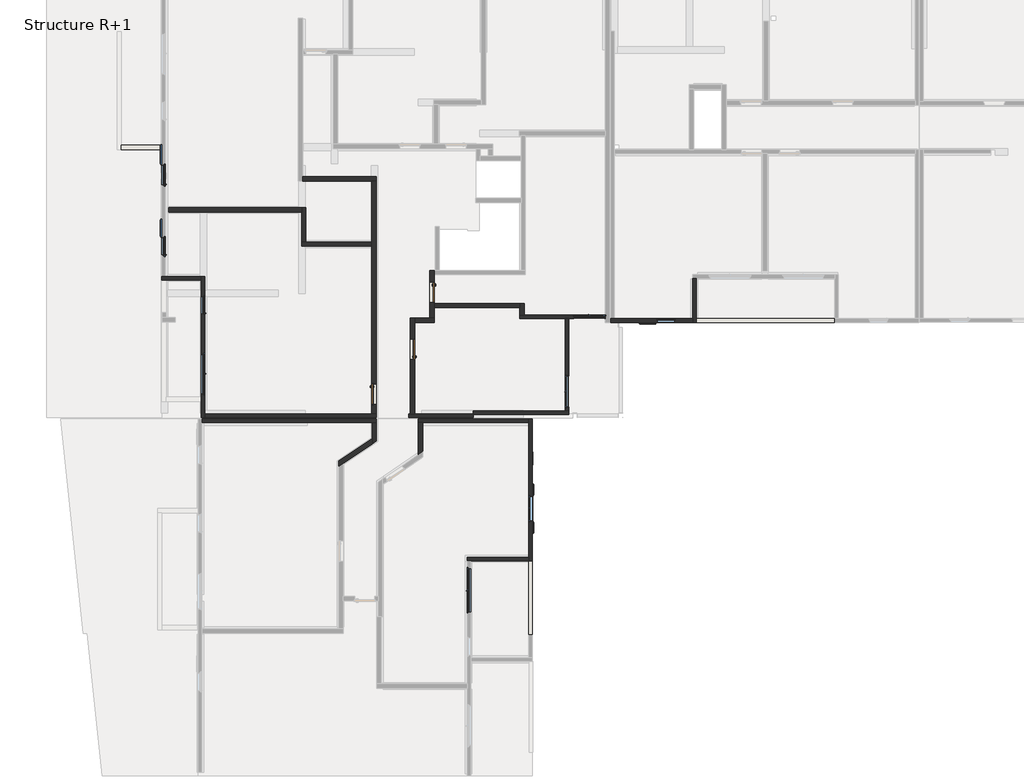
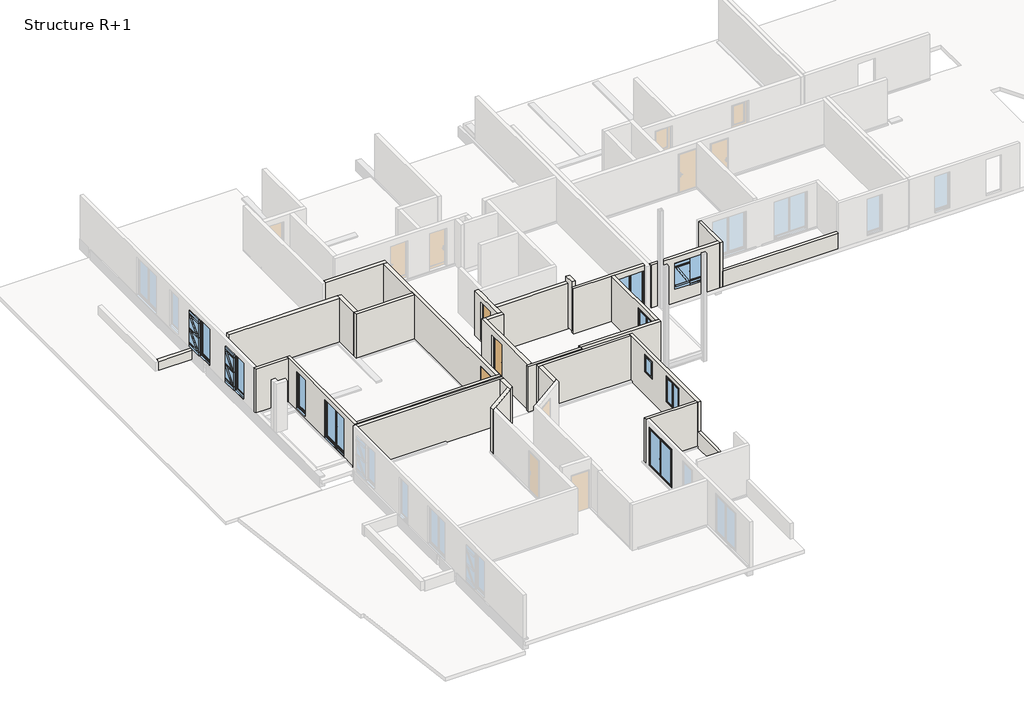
# One storey, part 2 of 11: 29 walls, 10 windows, 3 doors.
"""IFC4 building model written with IfcOpenShell, lengths in millimetres."""

from ifc_helpers import new_model, si_unit, frame, origin, place, context, project, spatial, polyline, outline, extrude, faceted_brep, transform, mapped, element, save
from components import door_6208809c, door_d4e09bec, window_6b6e24a2, window_e9bb7084, window_0_80m_x_2_05m_45d8a1b5, window_0_80m_x_2_05m_30132c93, window_0_90m_x_2_05m_de598733, window_1_vantail_droit_98c18ad5, window_1_40m_x_2_15m_17989232, window_1_80m_x_2_15m_7d3a4370, window_2_00m_x_2_15m_5decbdad

model = new_model("IFC4")

# Units and contexts
model_context = context("Model", 3, world=origin())
ifc_project = project(units=[si_unit("LENGTHUNIT", "METRE", prefix="MILLI")], contexts=[model_context])

# Site, building, storey
site = spatial("IfcSite", under=ifc_project)
building = spatial("IfcBuilding", under=site)
storey = spatial("IfcBuildingStorey", under=building, Name="Structure R+1", Elevation=3320.0)

# Doors
placement = place(None, origin())
door_shape = door_6208809c(model_context)
element("IfcDoor", 1, ObjectType="Entrée (avec angle d'ouverture) : PP Lisse (0.90 m x 2.15 m)", at=placement, inside=storey, context=model_context, shape_type="MappedRepresentation", body=[
    mapped(door_shape, transform((13145.0967812, 11175.465256, 3320.0), x_axis=(0.0, -1.0, 0.0), y_axis=(1.0, 0.0, 0.0), z_axis=(0.0, 0.0, 1.0))),
])
element("IfcDoor", 2, ObjectType="Entrée (avec angle d'ouverture) : PP Lisse (0.90 m x 2.15 m)", at=placement, inside=storey, context=model_context, shape_type="MappedRepresentation", body=[
    mapped(door_shape, transform((14889.7714977, 13219.661769, 3320.0), x_axis=(0.0, 1.0, 0.0), y_axis=(-1.0, 0.0, 0.0), z_axis=(0.0, 0.0, 1.0))),
])
door_2_shape = door_d4e09bec(model_context)
element("IfcDoor", 3, ObjectType="Entrée (avec angle d'ouverture) : PP Lisse (0.90 m x 2.15 m)", at=placement, inside=storey, context=model_context, shape_type="MappedRepresentation", body=[
    mapped(door_2_shape, transform((15775.9659642, 15787.9594141, 3320.0), x_axis=(0.0, -1.0, 0.0), y_axis=(1.0, 0.0, 0.0), z_axis=(0.0, 0.0, 1.0))),
])

# Walls
element("IfcWall", 4, ObjectType="Ext. Voile BA 16 + 2 + 2", at=placement, inside=storey, context=model_context, shape_type="Brep", body=[
    faceted_brep([(20315.920738, 3635.465256, 4130.0), (20315.920738, 265.0198488, 4130.0), (20315.920738, 265.0198488, 3320.0), (20315.920738, 265.0198488, 3230.0), (20315.920738, 3635.465256, 3230.0), (20155.920738, 265.0198488, 4130.0), (20155.920738, 3635.465256, 4130.0), (20155.920738, 3635.465256, 3230.0), (20155.920738, 265.0198488, 3230.0), (20155.920738, 265.0198488, 3320.0)], [[[0, 1, 2, 3, 4]], [[5, 6, 7, 8, 9]], [[6, 0, 4, 7]], [[1, 0, 6, 5]], [[1, 5, 9, 8, 3, 2]], [[4, 3, 8, 7]]]),
])
element("IfcWall", 5, ObjectType="Ext. Voile BA 16 + 2 + 2", at=placement, inside=storey, context=model_context, shape_type="SweptSolid", body=[
    extrude(outline(polyline([(34012.3966699, 14437.8380864), (27746.9796965, 14437.8380864), (27746.9796965, 14597.8380864), (34012.3966699, 14597.8380864), (34012.3966699, 14437.8380864)])), frame((0.0, 0.0, 3230.0), z_axis=(0.0, 0.0, 1.0), x_axis=(1.0, 0.0, 0.0)), (0.0, 0.0, 1.0), 900.0),
])
element("IfcWall", 6, ObjectType="Ext. Voile BA 16 + Isolant 120", at=placement, inside=storey, context=model_context, shape_type="Brep", body=[
    faceted_brep([(27586.9796965, 16431.4013077, 3230.0), (27586.9796965, 14597.8380864, 3230.0), (27586.9796965, 14437.8380864, 3230.0), (27586.9796965, 14437.8380864, 5830.0), (27586.9796965, 14597.8380864, 5830.0), (27586.9796965, 16431.4013077, 5830.0), (27746.9796965, 16431.4013077, 3230.0), (27746.9796965, 16431.4013077, 5830.0), (27746.9796965, 14437.8380864, 5830.0), (27746.9796965, 14437.8380864, 3230.0)], [[[0, 1, 2, 3, 4, 5]], [[6, 7, 8, 9]], [[2, 1, 0, 6, 9]], [[5, 4, 3, 8, 7]], [[0, 5, 7, 6]], [[2, 9, 8, 3]]]),
])
element("IfcWall", 7, ObjectType="Ext. Voile BA 16 + Isolant 120", at=placement, inside=storey, context=model_context, shape_type="Brep", body=[
    faceted_brep([(23871.9389593, 14597.8380864, 5830.0), (24031.9389593, 14597.8380864, 5830.0), (27586.9796965, 14597.8380864, 5830.0), (27586.9796965, 14597.8380864, 3230.0), (24031.9389593, 14597.8380864, 3230.0), (23871.9389593, 14597.8380864, 3230.0), (25966.9796965, 14597.8380864, 4055.0), (26766.9796965, 14597.8380864, 4055.0), (26816.9796965, 14597.8380864, 4055.0), (26816.9796965, 14597.8380864, 5555.0), (25916.9796965, 14597.8380864, 5555.0), (25916.9796965, 14597.8380864, 4055.0), (27586.9796965, 14437.8380864, 5830.0), (23871.9389593, 14437.8380864, 5830.0), (23871.9389593, 14437.8380864, 3230.0), (23879.3002373, 14437.8380864, 3230.0), (27586.9796965, 14437.8380864, 3230.0), (26766.9796965, 14437.8380864, 5505.0), (26766.9796965, 14437.8380864, 3975.0), (25966.9796965, 14437.8380864, 3975.0), (25966.9796965, 14437.8380864, 5505.0), (26766.9796965, 14517.8380864, 4055.0), (26766.9796965, 14517.8380864, 3975.0), (26766.9796965, 14497.8380864, 5505.0), (26766.9796965, 14497.8380864, 4055.0), (25966.9796965, 14517.8380864, 3975.0), (25966.9796965, 14517.8380864, 4055.0), (25966.9796965, 14497.8380864, 4055.0), (25966.9796965, 14497.8380864, 5505.0), (26776.9796965, 14497.8380864, 4055.0), (26776.9796965, 14547.8380864, 4055.0), (26816.9796965, 14547.8380864, 4055.0), (25916.9796965, 14547.8380864, 4055.0), (25956.9796965, 14547.8380864, 4055.0), (25956.9796965, 14497.8380864, 4055.0), (26816.9796965, 14547.8380864, 5555.0), (25916.9796965, 14547.8380864, 5555.0), (26776.9796965, 14547.8380864, 5515.0), (25956.9796965, 14547.8380864, 5515.0), (26776.9796965, 14497.8380864, 5515.0), (25956.9796965, 14497.8380864, 5515.0)], [[[0, 1, 2, 3, 4, 5], [6, 7, 8, 9, 10, 11]], [[12, 13, 14, 15, 16], [17, 18, 19, 20]], [[2, 1, 0, 13, 12]], [[21, 22, 18, 17, 23, 24]], [[25, 26, 27, 28, 20, 19]], [[21, 24, 29, 30, 31, 8, 7, 6, 11, 32, 33, 34, 27, 26]], [[28, 23, 17, 20]], [[22, 25, 19, 18]], [[22, 21, 26, 25]], [[8, 31, 35, 9]], [[33, 32, 36, 35, 31, 30, 37, 38]], [[30, 29, 39, 37]], [[24, 23, 28, 27, 34, 40, 39, 29]], [[9, 35, 36, 10]], [[38, 37, 39, 40]], [[32, 11, 10, 36]], [[34, 33, 38, 40]], [[13, 0, 5, 14]], [[3, 16, 15, 14, 5, 4]], [[2, 12, 16, 3]]]),
])
element("IfcWall", 8, ObjectType="Ext. Voile BA 16 + Isolant 120", at=placement, inside=storey, context=model_context, shape_type="Brep", body=[
    faceted_brep([(5489.893812, 10125.465256, 3230.0), (5489.893812, 10285.465256, 3230.0), (5489.893812, 16515.4652425, 3230.0), (5489.893812, 16515.4652425, 5830.0), (5489.893812, 10285.465256, 5830.0), (5489.893812, 10125.465256, 5830.0), (5489.893812, 15665.4652425, 3455.0), (5489.893812, 14765.4652425, 3455.0), (5489.893812, 14765.4652425, 5555.0), (5489.893812, 15665.4652425, 5555.0), (5489.893812, 13035.465256, 3355.0), (5489.893812, 11135.465256, 3355.0), (5489.893812, 11135.465256, 5555.0), (5489.893812, 13035.465256, 5555.0), (5329.893812, 10125.465256, 3230.0), (5329.893812, 10125.465256, 5830.0), (5329.893812, 16355.4652425, 5830.0), (5329.893812, 16515.4652425, 5830.0), (5329.893812, 16515.4652425, 3230.0), (5329.893812, 16355.4652425, 3230.0), (5329.893812, 14815.4652425, 5505.0), (5329.893812, 14815.4652425, 3446.5916612), (5329.893812, 15615.4652425, 3446.5916612), (5329.893812, 15615.4652425, 5505.0), (5329.893812, 11185.465256, 5505.0), (5329.893812, 11185.465256, 3346.5916612), (5329.893812, 12985.465256, 3346.5916612), (5329.893812, 12985.465256, 5505.0), (5409.893812, 14815.4652425, 3455.0), (5389.893812, 14815.4652425, 5505.0), (5389.893812, 14815.4652425, 3455.0), (5409.893812, 15615.4652425, 3455.0), (5389.893812, 15615.4652425, 3455.0), (5389.893812, 15615.4652425, 5505.0), (5389.893812, 14805.4652425, 3455.0), (5439.893812, 14805.4652425, 3455.0), (5439.893812, 14765.4652425, 3455.0), (5439.893812, 15665.4652425, 3455.0), (5439.893812, 15625.4652425, 3455.0), (5389.893812, 15625.4652425, 3455.0), (5439.893812, 14765.4652425, 5555.0), (5439.893812, 14805.4652425, 5515.0), (5439.893812, 15625.4652425, 5515.0), (5439.893812, 15665.4652425, 5555.0), (5389.893812, 14805.4652425, 5515.0), (5389.893812, 15625.4652425, 5515.0), (5409.893812, 11185.465256, 3355.0), (5389.893812, 11185.465256, 5505.0), (5389.893812, 11185.465256, 3355.0), (5409.893812, 12985.465256, 3355.0), (5389.893812, 12985.465256, 3355.0), (5389.893812, 12985.465256, 5505.0), (5389.893812, 11175.465256, 3355.0), (5439.893812, 11175.465256, 3355.0), (5439.893812, 11135.465256, 3355.0), (5439.893812, 13035.465256, 3355.0), (5439.893812, 12995.465256, 3355.0), (5389.893812, 12995.465256, 3355.0), (5439.893812, 11135.465256, 5555.0), (5439.893812, 11175.465256, 5515.0), (5439.893812, 12995.465256, 5515.0), (5439.893812, 13035.465256, 5555.0), (5389.893812, 11175.465256, 5515.0), (5389.893812, 12995.465256, 5515.0)], [[[0, 1, 2, 3, 4, 5], [6, 7, 8, 9], [10, 11, 12, 13]], [[14, 15, 16, 17, 18, 19], [20, 21, 22, 23], [24, 25, 26, 27]], [[2, 1, 0, 14, 19, 18]], [[5, 4, 3, 17, 16, 15]], [[3, 2, 18, 17]], [[0, 5, 15, 14]], [[28, 21, 20, 29, 30]], [[22, 31, 32, 33, 23]], [[28, 31, 22, 21]], [[20, 23, 33, 29]], [[31, 28, 30, 34, 35, 36, 7, 6, 37, 38, 39, 32]], [[7, 36, 40, 8]], [[36, 35, 41, 42, 38, 37, 43, 40]], [[35, 34, 44, 41]], [[34, 30, 29, 33, 32, 39, 45, 44]], [[8, 40, 43, 9]], [[42, 41, 44, 45]], [[43, 37, 6, 9]], [[38, 42, 45, 39]], [[46, 25, 24, 47, 48]], [[26, 49, 50, 51, 27]], [[46, 49, 26, 25]], [[24, 27, 51, 47]], [[49, 46, 48, 52, 53, 54, 11, 10, 55, 56, 57, 50]], [[11, 54, 58, 12]], [[54, 53, 59, 60, 56, 55, 61, 58]], [[53, 52, 62, 59]], [[52, 48, 47, 51, 50, 57, 63, 62]], [[12, 58, 61, 13]], [[60, 59, 62, 63]], [[61, 55, 10, 13]], [[56, 60, 63, 57]]]),
])
element("IfcWall", 9, ObjectType="Ext. Voile BA 16 + Isolant 120", at=placement, inside=storey, context=model_context, shape_type="Brep", body=[
    faceted_brep([(5329.893812, 16515.4652425, 3230.0), (3696.9058449, 16515.4652425, 3230.0), (3536.9058449, 16515.4652425, 3230.0), (3536.9058449, 16515.4652425, 5830.0), (3696.9058449, 16515.4652425, 5830.0), (5329.893812, 16515.4652425, 5830.0), (5329.893812, 16355.4652425, 3230.0), (5329.893812, 16355.4652425, 5830.0), (3536.9058449, 16355.4652425, 5830.0), (3536.9058449, 16355.4652425, 3330.0), (3536.9058449, 16355.4652425, 3230.0)], [[[0, 1, 2, 3, 4, 5]], [[6, 7, 8, 9, 10]], [[2, 1, 0, 6, 10]], [[5, 4, 3, 8, 7]], [[0, 5, 7, 6]], [[2, 10, 9, 8, 3]]]),
])
element("IfcWall", 10, ObjectType="Ext. Voile BA 16 + Isolant 120", at=placement, inside=storey, context=model_context, shape_type="Brep", body=[
    faceted_brep([(20155.920738, 10065.4658562, 3030.0), (20155.920738, 3635.465256, 3030.0), (20155.920738, 3635.465256, 3230.0), (20155.920738, 3635.465256, 5830.0), (20155.920738, 3795.465256, 5830.0), (20155.920738, 9905.4658562, 5830.0), (20155.920738, 10065.4658562, 5830.0), (20155.920738, 10065.4658562, 3230.0), (20155.920738, 5395.465256, 4055.0), (20155.920738, 6595.465256, 4055.0), (20155.920738, 6595.465256, 5555.0), (20155.920738, 5395.465256, 5555.0), (20155.920738, 7915.4658562, 4555.0), (20155.920738, 8615.4658562, 4555.0), (20155.920738, 8615.4658562, 5555.0), (20155.920738, 7915.4658562, 5555.0), (20315.920738, 10065.4658562, 3030.0), (20315.920738, 10065.4658562, 5830.0), (20315.920738, 3635.465256, 5830.0), (20315.920738, 3635.465256, 3030.0), (20315.920738, 6545.465256, 5505.0), (20315.920738, 6545.465256, 3975.0), (20315.920738, 5445.465256, 3975.0), (20315.920738, 5445.465256, 5505.0), (20315.920738, 8565.4658562, 5505.0), (20315.920738, 8565.4658562, 4531.5916612), (20315.920738, 7965.4658562, 4531.5916612), (20315.920738, 7965.4658562, 5505.0), (20235.920738, 6545.465256, 4055.0), (20235.920738, 6545.465256, 3975.0), (20255.920738, 6545.465256, 5505.0), (20255.920738, 6545.465256, 4055.0), (20235.920738, 5445.465256, 3975.0), (20235.920738, 5445.465256, 4055.0), (20255.920738, 5445.465256, 4055.0), (20255.920738, 5445.465256, 5505.0), (20255.920738, 6555.465256, 4055.0), (20205.920738, 6555.465256, 4055.0), (20205.920738, 6595.465256, 4055.0), (20205.920738, 5395.465256, 4055.0), (20205.920738, 5435.465256, 4055.0), (20255.920738, 5435.465256, 4055.0), (20205.920738, 6595.465256, 5555.0), (20205.920738, 6555.465256, 5515.0), (20205.920738, 5435.465256, 5515.0), (20205.920738, 5395.465256, 5555.0), (20255.920738, 6555.465256, 5515.0), (20255.920738, 5435.465256, 5515.0), (20235.920738, 8565.4658562, 4555.0), (20235.920738, 8565.4658562, 4540.0), (20255.920738, 8565.4658562, 5505.0), (20255.920738, 8565.4658562, 4555.0), (20235.920738, 7965.4658562, 4540.0), (20235.920738, 7965.4658562, 4555.0), (20255.920738, 7965.4658562, 4555.0), (20255.920738, 7965.4658562, 5505.0), (20255.920738, 8575.4658562, 4555.0), (20205.920738, 8575.4658562, 4555.0), (20205.920738, 8615.4658562, 4555.0), (20205.920738, 7915.4658562, 4555.0), (20205.920738, 7955.4658562, 4555.0), (20255.920738, 7955.4658562, 4555.0), (20205.920738, 8615.4658562, 5555.0), (20205.920738, 8575.4658562, 5515.0), (20205.920738, 7955.4658562, 5515.0), (20205.920738, 7915.4658562, 5555.0), (20255.920738, 8575.4658562, 5515.0), (20255.920738, 7955.4658562, 5515.0)], [[[0, 1, 2, 3, 4, 5, 6, 7], [8, 9, 10, 11], [12, 13, 14, 15]], [[16, 17, 18, 19], [20, 21, 22, 23], [24, 25, 26, 27]], [[1, 0, 16, 19]], [[6, 5, 4, 3, 18, 17]], [[3, 2, 1, 19, 18]], [[0, 7, 6, 17, 16]], [[28, 29, 21, 20, 30, 31]], [[32, 33, 34, 35, 23, 22]], [[29, 32, 22, 21]], [[29, 28, 33, 32]], [[20, 23, 35, 30]], [[33, 28, 31, 36, 37, 38, 9, 8, 39, 40, 41, 34]], [[9, 38, 42, 10]], [[38, 37, 43, 44, 40, 39, 45, 42]], [[37, 36, 46, 43]], [[36, 31, 30, 35, 34, 41, 47, 46]], [[10, 42, 45, 11]], [[44, 43, 46, 47]], [[45, 39, 8, 11]], [[40, 44, 47, 41]], [[48, 49, 25, 24, 50, 51]], [[52, 53, 54, 55, 27, 26]], [[49, 52, 26, 25]], [[49, 48, 53, 52]], [[24, 27, 55, 50]], [[53, 48, 51, 56, 57, 58, 13, 12, 59, 60, 61, 54]], [[13, 58, 62, 14]], [[58, 57, 63, 64, 60, 59, 65, 62]], [[57, 56, 66, 63]], [[56, 51, 50, 55, 54, 61, 67, 66]], [[14, 62, 65, 15]], [[64, 63, 66, 67]], [[65, 59, 12, 15]], [[60, 64, 67, 61]]]),
])
element("IfcWall", 11, ObjectType="Ext. Voile BA 16 + Isolant 120", at=placement, inside=storey, context=model_context, shape_type="Brep", body=[
    faceted_brep([(20155.920738, 3795.465256, 3230.0), (17362.934101, 3795.465256, 3230.0), (17362.934101, 3795.465256, 5830.0), (20155.920738, 3795.465256, 5830.0), (20155.920738, 3635.465256, 3230.0), (20155.920738, 3635.465256, 5830.0), (17522.934101, 3635.465256, 5830.0), (17362.934101, 3635.465256, 5830.0), (17362.934101, 3635.465256, 3230.0), (17522.934101, 3635.465256, 3230.0)], [[[0, 1, 2, 3]], [[4, 5, 6, 7, 8, 9]], [[1, 0, 4, 9, 8]], [[3, 2, 7, 6, 5]], [[0, 3, 5, 4]], [[2, 1, 8, 7]]]),
])
element("IfcWall", 12, ObjectType="Ext. Voile BA 16 + Isolant 120", at=placement, inside=storey, context=model_context, shape_type="Brep", body=[
    faceted_brep([(23619.3795366, 14760.8367198, 3230.0), (19749.8723761, 14760.8367198, 3230.0), (19749.8723761, 14760.8367198, 3320.0), (19749.8723761, 14760.8367198, 5830.0), (23619.3795366, 14760.8367198, 5830.0), (23619.3795366, 14760.8367198, 5555.0), (22135.8013446, 14760.8367198, 5555.0), (22135.8013446, 14760.8367198, 3355.0), (22185.8013446, 14760.8367198, 3355.0), (23585.8013446, 14760.8367198, 3355.0), (23619.3795366, 14760.8367198, 3355.0), (19749.8723761, 14600.8367198, 3230.0), (21812.2231526, 14600.8367198, 3230.0), (21972.2231526, 14600.8367198, 3230.0), (23619.3795366, 14600.8367198, 3230.0), (23619.3795366, 14600.8367198, 5830.0), (21972.2231526, 14600.8367198, 5830.0), (21812.2231526, 14600.8367198, 5830.0), (19749.8723761, 14600.8367198, 5830.0), (23585.8013446, 14600.8367198, 5505.0), (23585.8013446, 14600.8367198, 3346.5916612), (22185.8013446, 14600.8367198, 3346.5916612), (22185.8013446, 14600.8367198, 5505.0), (23619.3795366, 14710.8367198, 3355.0), (23619.3795366, 14710.8367198, 5555.0), (23585.8013446, 14660.8367198, 5505.0), (23585.8013446, 14660.8367198, 3355.0), (23585.8013446, 14680.8367198, 3355.0), (22185.8013446, 14680.8367198, 3355.0), (22185.8013446, 14660.8367198, 3355.0), (22185.8013446, 14660.8367198, 5505.0), (23595.8013446, 14660.8367198, 3355.0), (23595.8013446, 14710.8367198, 3355.0), (22135.8013446, 14710.8367198, 3355.0), (22175.8013446, 14710.8367198, 3355.0), (22175.8013446, 14660.8367198, 3355.0), (22135.8013446, 14710.8367198, 5555.0), (23595.8013446, 14710.8367198, 5515.0), (22175.8013446, 14710.8367198, 5515.0), (23595.8013446, 14660.8367198, 5515.0), (22175.8013446, 14660.8367198, 5515.0)], [[[0, 1, 2, 3, 4, 5, 6, 7, 8, 9, 10]], [[11, 12, 13, 14, 15, 16, 17, 18], [19, 20, 21, 22]], [[1, 0, 14, 13, 12, 11]], [[4, 3, 18, 17, 16, 15]], [[4, 15, 14, 0, 10, 23, 24, 5]], [[3, 2, 1, 11, 18]], [[25, 26, 27, 20, 19]], [[28, 29, 30, 22, 21]], [[27, 26, 31, 32, 23, 10, 9, 8, 7, 33, 34, 35, 29, 28]], [[30, 25, 19, 22]], [[27, 28, 21, 20]], [[34, 33, 36, 24, 23, 32, 37, 38]], [[32, 31, 39, 37]], [[26, 25, 30, 29, 35, 40, 39, 31]], [[36, 6, 5, 24]], [[38, 37, 39, 40]], [[33, 7, 6, 36]], [[35, 34, 38, 40]]]),
])
element("IfcWall", 13, ObjectType="Ext. Voile BA 16 + Isolant 120", at=placement, inside=storey, context=model_context, shape_type="Brep", body=[
    faceted_brep([(17640.104333, 10428.39158, 5830.0), (21812.2231526, 10428.39158, 5830.0), (21972.2231526, 10428.39158, 5830.0), (21972.2231526, 10428.39158, 3230.0), (21812.2231526, 10428.39158, 3230.0), (17640.104333, 10428.39158, 3230.0), (21972.2231526, 10268.39158, 5830.0), (17640.104333, 10268.39158, 5830.0), (17640.104333, 10268.39158, 3230.0), (21972.2231526, 10268.39158, 3230.0)], [[[0, 1, 2, 3, 4, 5]], [[6, 7, 8, 9]], [[7, 0, 5, 8]], [[2, 1, 0, 7, 6]], [[2, 6, 9, 3]], [[5, 4, 3, 9, 8]]]),
])
element("IfcWall", 14, ObjectType="Ext. Voile BA 16 + Isolant 120", at=placement, inside=storey, context=model_context, shape_type="Brep", body=[
    faceted_brep([(21812.2231526, 14600.8367198, 3230.0), (21812.2231526, 10428.39158, 3230.0), (21812.2231526, 10428.39158, 5830.0), (21812.2231526, 14600.8367198, 5830.0), (21812.2231526, 10558.39158, 3355.0), (21812.2231526, 12058.39158, 3355.0), (21812.2231526, 12058.39158, 5555.0), (21812.2231526, 10558.39158, 5555.0), (21972.2231526, 14600.8367198, 3230.0), (21972.2231526, 14600.8367198, 5830.0), (21972.2231526, 10428.39158, 5830.0), (21972.2231526, 10428.39158, 3230.0), (21972.2231526, 12008.39158, 5505.0), (21972.2231526, 12008.39158, 3346.5916612), (21972.2231526, 10608.39158, 3346.5916612), (21972.2231526, 10608.39158, 5505.0), (21892.2231526, 12008.39158, 3355.0), (21912.2231526, 12008.39158, 5505.0), (21912.2231526, 12008.39158, 3355.0), (21892.2231526, 10608.39158, 3355.0), (21912.2231526, 10608.39158, 3355.0), (21912.2231526, 10608.39158, 5505.0), (21912.2231526, 12018.39158, 3355.0), (21862.2231526, 12018.39158, 3355.0), (21862.2231526, 12058.39158, 3355.0), (21862.2231526, 10558.39158, 3355.0), (21862.2231526, 10598.39158, 3355.0), (21912.2231526, 10598.39158, 3355.0), (21862.2231526, 12058.39158, 5555.0), (21862.2231526, 12018.39158, 5515.0), (21862.2231526, 10598.39158, 5515.0), (21862.2231526, 10558.39158, 5555.0), (21912.2231526, 12018.39158, 5515.0), (21912.2231526, 10598.39158, 5515.0)], [[[0, 1, 2, 3], [4, 5, 6, 7]], [[8, 9, 10, 11], [12, 13, 14, 15]], [[1, 0, 8, 11]], [[3, 2, 10, 9]], [[2, 1, 11, 10]], [[0, 3, 9, 8]], [[16, 13, 12, 17, 18]], [[14, 19, 20, 21, 15]], [[16, 19, 14, 13]], [[12, 15, 21, 17]], [[19, 16, 18, 22, 23, 24, 5, 4, 25, 26, 27, 20]], [[5, 24, 28, 6]], [[24, 23, 29, 30, 26, 25, 31, 28]], [[23, 22, 32, 29]], [[22, 18, 17, 21, 20, 27, 33, 32]], [[6, 28, 31, 7]], [[30, 29, 32, 33]], [[31, 25, 4, 7]], [[26, 30, 33, 27]]]),
])
element("IfcWall", 15, ObjectType="Voile BA 16", at=placement, inside=storey, context=model_context, shape_type="Brep", body=[
    faceted_brep([(5344.2512184, 9895.4625547, 5830.0), (5344.2512184, 9895.4625547, 3230.0), (13056.279785, 9895.4625547, 3230.0), (13256.279785, 9895.4625547, 3230.0), (13256.279785, 9895.4625547, 5830.0), (13056.279785, 9895.4625547, 5830.0), (5344.2512184, 10055.4625547, 3230.0), (5344.2512184, 10055.4625547, 5830.0), (13256.279785, 10055.4625547, 5830.0), (13256.279785, 10055.4625547, 3230.0)], [[[0, 1, 2, 3, 4, 5]], [[6, 7, 8, 9]], [[3, 2, 1, 6, 9]], [[0, 5, 4, 8, 7]], [[4, 3, 9, 8]], [[0, 7, 6, 1]]]),
])
element("IfcWall", 16, ObjectType="Voile BA 16", at=placement, inside=storey, context=model_context, shape_type="Brep", body=[
    faceted_brep([(5489.893812, 10125.465256, 5830.0), (5489.893812, 10125.465256, 3230.0), (13245.0967812, 10125.465256, 3230.0), (13245.0967812, 10125.465256, 5830.0), (5489.893812, 10285.465256, 3230.0), (5489.893812, 10285.465256, 5830.0), (13045.0967812, 10285.465256, 5830.0), (13245.0967812, 10285.465256, 5830.0), (13245.0967812, 10285.465256, 3230.0), (13045.0967812, 10285.465256, 3230.0)], [[[0, 1, 2, 3]], [[4, 5, 6, 7, 8, 9]], [[2, 1, 4, 9, 8]], [[0, 3, 7, 6, 5]], [[3, 2, 8, 7]], [[0, 5, 4, 1]]]),
])
element("IfcWall", 17, ObjectType="Voile BA 16", at=placement, inside=storey, context=model_context, shape_type="Brep", body=[
    faceted_brep([(15152.2580905, 9905.4658562, 3230.0), (15352.2580905, 9905.4658562, 3230.0), (20155.920738, 9905.4658562, 3230.0), (20155.920738, 9905.4658562, 5830.0), (15352.2580905, 9905.4658562, 5830.0), (15152.2580905, 9905.4658562, 5830.0), (15152.2580905, 10065.4658562, 3230.0), (15152.2580905, 10065.4658562, 5830.0), (20155.920738, 10065.4658562, 5830.0), (20155.920738, 10065.4658562, 3230.0)], [[[0, 1, 2, 3, 4, 5]], [[6, 7, 8, 9]], [[2, 1, 0, 6, 9]], [[5, 4, 3, 8, 7]], [[3, 2, 9, 8]], [[0, 5, 7, 6]]]),
])
element("IfcWall", 18, ObjectType="Voile BA 16", at=placement, inside=storey, context=model_context, shape_type="Brep", body=[
    faceted_brep([(14729.7714977, 10125.465256, 3230.0), (17640.104333, 10125.465256, 3230.0), (17640.104333, 10125.465256, 5830.0), (14729.7714977, 10125.465256, 5830.0), (14729.7714977, 10285.465256, 3230.0), (14729.7714977, 10285.465256, 5830.0), (17640.104333, 10285.465256, 5830.0), (17640.104333, 10285.465256, 3320.0), (17640.104333, 10285.465256, 3230.0), (15299.2605642, 10285.465256, 3230.0), (17640.104333, 10135.465256, 3230.0)], [[[0, 1, 2, 3]], [[4, 5, 6, 7, 8, 9]], [[1, 0, 4, 9, 8, 10]], [[2, 1, 10, 8, 7, 6]], [[3, 2, 6, 5]], [[0, 3, 5, 4]]]),
])
element("IfcWall", 19, ObjectType="Voile BA 20", at=placement, inside=storey, context=model_context, shape_type="Brep", body=[
    faceted_brep([(19949.8723761, 14760.8367198, 3320.0), (19949.8723761, 15297.9594141, 3320.0), (19949.8723761, 15297.9594141, 6120.0), (19949.8723761, 14760.8367198, 6120.0), (19749.8723761, 14760.8367198, 3320.0), (19749.8723761, 14760.8367198, 5830.0), (19749.8723761, 14760.8367198, 6120.0), (19749.8723761, 15297.9594141, 6120.0), (19749.8723761, 15297.9594141, 5830.0), (19749.8723761, 15297.9594141, 3320.0)], [[[0, 1, 2, 3]], [[4, 5, 6, 7, 8, 9]], [[1, 0, 4, 9]], [[3, 2, 7, 6]], [[0, 3, 6, 5, 4]], [[2, 1, 9, 8, 7]]]),
])
element("IfcWall", 20, ObjectType="Voile BA 20", at=placement, inside=storey, context=model_context, shape_type="Brep", body=[
    faceted_brep([(19749.8723761, 15297.9594141, 3230.0), (15875.9659642, 15297.9594141, 3230.0), (15875.9659642, 15297.9594141, 5830.0), (19749.8723761, 15297.9594141, 5830.0), (19749.8723761, 15297.9594141, 3320.0), (19749.8723761, 15097.9594141, 3230.0), (19749.8723761, 15097.9594141, 5830.0), (15875.9659642, 15097.9594141, 5830.0), (15875.9659642, 15097.9594141, 3230.0)], [[[0, 1, 2, 3, 4]], [[5, 6, 7, 8]], [[1, 0, 5, 8]], [[3, 2, 7, 6]], [[0, 4, 3, 6, 5]], [[2, 1, 8, 7]]]),
])
element("IfcWall", 21, ObjectType="Voile BA 20", at=placement, inside=storey, context=model_context, shape_type="Brep", body=[
    faceted_brep([(13044.0967812, 18084.4405074, 3230.0), (10065.0967812, 18084.4405074, 3230.0), (9865.0967812, 18084.4405074, 3230.0), (9865.0967812, 18084.4405074, 5830.0), (10065.0967812, 18084.4405074, 5830.0), (13044.0967812, 18084.4405074, 5830.0), (13044.0967812, 17884.4405074, 3230.0), (13044.0967812, 17884.4405074, 5830.0), (9865.0967812, 17884.4405074, 5830.0), (9865.0967812, 17884.4405074, 3230.0)], [[[0, 1, 2, 3, 4, 5]], [[6, 7, 8, 9]], [[2, 1, 0, 6, 9]], [[5, 4, 3, 8, 7]], [[0, 5, 7, 6]], [[3, 2, 9, 8]]]),
])
element("IfcWall", 22, ObjectType="Voile BA 20", at=placement, inside=storey, context=model_context, shape_type="Brep", body=[
    faceted_brep([(10065.0967812, 18084.4405074, 3230.0), (10065.0967812, 19631.3462278, 3230.0), (10065.0967812, 19631.3462278, 5830.0), (10065.0967812, 18084.4405074, 5830.0), (9865.0967812, 18084.4405074, 3230.0), (9865.0967812, 18084.4405074, 5830.0), (9865.0967812, 19431.3462278, 5830.0), (9865.0967812, 19631.3462278, 5830.0), (9865.0967812, 19631.3462278, 3230.0), (9865.0967812, 19431.3462278, 3230.0)], [[[0, 1, 2, 3]], [[4, 5, 6, 7, 8, 9]], [[1, 0, 4, 9, 8]], [[3, 2, 7, 6, 5]], [[0, 3, 5, 4]], [[2, 1, 8, 7]]]),
])
element("IfcWall", 23, ObjectType="Voile BA 20", at=placement, inside=storey, context=model_context, shape_type="SweptSolid", body=[
    extrude(outline(polyline([(3857.9058449, 19631.3462278), (9865.0967812, 19631.3462278), (9865.0967812, 19431.3462278), (3857.9058449, 19431.3462278), (3857.9058449, 19631.3462278)])), frame((0.0, 0.0, 3230.0), z_axis=(0.0, 0.0, 1.0), x_axis=(1.0, 0.0, 0.0)), (0.0, 0.0, 1.0), 2600.0),
])
element("IfcWall", 24, ObjectType="Voile BA 20", at=placement, inside=storey, context=model_context, shape_type="SweptSolid", body=[
    extrude(outline(polyline([(3526.9065839, 22262.3094257), (1707.5836831, 22262.3094257), (1707.5836831, 22462.3094257), (3526.9065839, 22462.3094257), (3526.9065839, 22262.3094257)])), frame((0.0, 0.0, 2830.0), z_axis=(0.0, 0.0, 1.0), x_axis=(1.0, 0.0, 0.0)), (0.0, 0.0, 1.0), 500.0),
])
element("IfcWall", 25, ObjectType="Voile BA 20 + Isolant 60", at=placement, inside=storey, context=model_context, shape_type="SweptSolid", body=[
    extrude(outline(polyline([(15352.2580905, 9905.4658562), (15352.2580905, 8576.7939137), (15152.2580905, 8439.9939492), (15152.2580905, 9905.4658562), (15352.2580905, 9905.4658562)])), frame((0.0, 0.0, 3230.0), z_axis=(0.0, 0.0, 1.0), x_axis=(1.0, 0.0, 0.0)), (0.0, 0.0, 1.0), 2600.0),
])
element("IfcWall", 26, ObjectType="Voile BA 20 + Isolant 60", at=placement, inside=storey, context=model_context, shape_type="Brep", body=[
    faceted_brep([(13056.279785, 9895.4625547, 3230.0), (13056.279785, 9174.0267173, 3230.0), (13056.279785, 8931.716523, 3230.0), (13056.279785, 8931.716523, 5830.0), (13056.279785, 9174.0267173, 5830.0), (13056.279785, 9895.4625547, 5830.0), (13256.279785, 9895.4625547, 3230.0), (13256.279785, 9895.4625547, 5830.0), (13256.279785, 9068.5164875, 5830.0), (13256.279785, 9068.5164875, 3230.0)], [[[0, 1, 2, 3, 4, 5]], [[6, 7, 8, 9]], [[2, 1, 0, 6, 9]], [[5, 4, 3, 8, 7]], [[0, 5, 7, 6]], [[3, 2, 9, 8]]]),
])
element("IfcWall", 27, ObjectType="Voile BA 20 + Isolant 60", at=placement, inside=storey, context=model_context, shape_type="Brep", body=[
    faceted_brep([(13056.279785, 9174.0267173, 3230.0), (11554.0730744, 8146.517594, 3230.0), (11554.0730744, 8146.517594, 5830.0), (13056.279785, 9174.0267173, 5830.0), (13056.279785, 8931.716523, 3230.0), (13056.279785, 8931.716523, 5830.0), (11754.0730744, 8041.0073641, 5830.0), (11554.0730744, 7904.2073996, 5830.0), (11554.0730744, 7904.2073996, 3230.0), (11754.0730744, 8041.0073641, 3230.0)], [[[0, 1, 2, 3]], [[4, 5, 6, 7, 8, 9]], [[1, 0, 4, 9, 8]], [[3, 2, 7, 6, 5]], [[0, 3, 5, 4]], [[2, 1, 8, 7]]]),
])
element("IfcWall", 28, ObjectType="Voile BA 20 + Isolant 60", at=placement, inside=storey, context=model_context, shape_type="Brep", body=[
    faceted_brep([(14989.7714977, 10285.465256, 3230.0), (14989.7714977, 14425.39158, 3230.0), (14989.7714977, 14625.39158, 3230.0), (14989.7714977, 14625.39158, 5830.0), (14989.7714977, 14425.39158, 5830.0), (14989.7714977, 10285.465256, 5830.0), (14989.7714977, 12749.661769, 3320.0), (14989.7714977, 12719.661769, 3320.0), (14989.7714977, 12719.661769, 5510.0), (14989.7714977, 13699.661769, 5510.0), (14989.7714977, 13699.661769, 3320.0), (14989.7714977, 13669.661769, 3320.0), (14789.7714977, 14625.39158, 3230.0), (14789.7714977, 10285.465256, 3230.0), (14789.7714977, 10285.465256, 5830.0), (14789.7714977, 14625.39158, 5830.0), (14789.7714977, 13669.661769, 5480.0), (14789.7714977, 12749.661769, 5480.0), (14789.7714977, 12749.661769, 3320.0), (14789.7714977, 13669.661769, 3320.0), (14889.7714977, 13669.661769, 5480.0), (14889.7714977, 12749.661769, 5480.0), (14889.7714977, 12749.661769, 3320.0), (14889.7714977, 12734.661769, 3320.0), (14932.7714977, 12734.661769, 3320.0), (14932.7714977, 12719.661769, 3320.0), (14932.7714977, 13699.661769, 3320.0), (14932.7714977, 13684.661769, 3320.0), (14889.7714977, 13684.661769, 3320.0), (14889.7714977, 13669.661769, 3320.0), (14932.7714977, 12734.661769, 5495.0), (14932.7714977, 13684.661769, 5495.0), (14932.7714977, 13699.661769, 5510.0), (14932.7714977, 12719.661769, 5510.0), (14889.7714977, 12734.661769, 5495.0), (14889.7714977, 13684.661769, 5495.0)], [[[0, 1, 2, 3, 4, 5], [6, 7, 8, 9, 10, 11]], [[12, 13, 14, 15], [16, 17, 18, 19]], [[2, 1, 0, 13, 12]], [[5, 4, 3, 15, 14]], [[0, 5, 14, 13]], [[3, 2, 12, 15]], [[20, 21, 17, 16]], [[22, 23, 24, 25, 7, 6, 11, 10, 26, 27, 28, 29, 19, 18]], [[29, 20, 16, 19]], [[21, 22, 18, 17]], [[25, 24, 30, 31, 27, 26, 32, 33]], [[7, 25, 33, 8]], [[33, 32, 9, 8]], [[26, 10, 9, 32]], [[24, 23, 34, 30]], [[21, 20, 29, 28, 35, 34, 23, 22]], [[31, 30, 34, 35]], [[28, 27, 31, 35]]]),
])
element("IfcWall", 29, ObjectType="Voile BA 20 + Isolant 60", at=placement, inside=storey, context=model_context, shape_type="Brep", body=[
    faceted_brep([(14989.7714977, 14425.39158, 3230.0), (15875.9659642, 14425.39158, 3230.0), (15875.9659642, 14425.39158, 5830.0), (14989.7714977, 14425.39158, 5830.0), (14989.7714977, 14625.39158, 3230.0), (14989.7714977, 14625.39158, 5830.0), (15675.9659642, 14625.39158, 5830.0), (15875.9659642, 14625.39158, 5830.0), (15875.9659642, 14625.39158, 3230.0), (15675.9659642, 14625.39158, 3230.0)], [[[0, 1, 2, 3]], [[4, 5, 6, 7, 8, 9]], [[1, 0, 4, 9, 8]], [[3, 2, 7, 6, 5]], [[0, 3, 5, 4]], [[2, 1, 8, 7]]]),
])
element("IfcWall", 30, ObjectType="Voile BA 20 + Isolant 60", at=placement, inside=storey, context=model_context, shape_type="Brep", body=[
    faceted_brep([(15875.9659642, 14625.39158, 3230.0), (15875.9659642, 15097.9594141, 3230.0), (15875.9659642, 15297.9594141, 3230.0), (15875.9659642, 16600.9152593, 3230.0), (15875.9659642, 16780.9152593, 3230.0), (15875.9659642, 16780.9152593, 5830.0), (15875.9659642, 16600.9152593, 5830.0), (15875.9659642, 15297.9594141, 5830.0), (15875.9659642, 15097.9594141, 5830.0), (15875.9659642, 14625.39158, 5830.0), (15875.9659642, 15337.9594141, 3320.0), (15875.9659642, 15307.9594141, 3320.0), (15875.9659642, 15307.9594141, 5510.0), (15875.9659642, 16287.9594141, 5510.0), (15875.9659642, 16287.9594141, 3320.0), (15875.9659642, 16257.9594141, 3320.0), (15675.9659642, 16780.9152593, 3230.0), (15675.9659642, 14625.39158, 3230.0), (15675.9659642, 14625.39158, 5830.0), (15675.9659642, 16780.9152593, 5830.0), (15675.9659642, 16257.9594141, 5480.0), (15675.9659642, 15337.9594141, 5480.0), (15675.9659642, 15337.9594141, 3320.0), (15675.9659642, 16257.9594141, 3320.0), (15775.9659642, 16257.9594141, 5480.0), (15775.9659642, 15337.9594141, 5480.0), (15775.9659642, 15337.9594141, 3320.0), (15775.9659642, 15322.9594141, 3320.0), (15818.9659642, 15322.9594141, 3320.0), (15818.9659642, 15307.9594141, 3320.0), (15818.9659642, 16287.9594141, 3320.0), (15818.9659642, 16272.9594141, 3320.0), (15775.9659642, 16272.9594141, 3320.0), (15775.9659642, 16257.9594141, 3320.0), (15818.9659642, 15322.9594141, 5495.0), (15818.9659642, 16272.9594141, 5495.0), (15818.9659642, 16287.9594141, 5510.0), (15818.9659642, 15307.9594141, 5510.0), (15775.9659642, 16272.9594141, 5495.0), (15775.9659642, 15322.9594141, 5495.0)], [[[0, 1, 2, 3, 4, 5, 6, 7, 8, 9], [10, 11, 12, 13, 14, 15]], [[16, 17, 18, 19], [20, 21, 22, 23]], [[4, 3, 2, 1, 0, 17, 16]], [[9, 8, 7, 6, 5, 19, 18]], [[5, 4, 16, 19]], [[24, 25, 21, 20]], [[26, 27, 28, 29, 11, 10, 15, 14, 30, 31, 32, 33, 23, 22]], [[25, 26, 22, 21]], [[33, 24, 20, 23]], [[29, 28, 34, 35, 31, 30, 36, 37]], [[30, 14, 13, 36]], [[37, 36, 13, 12]], [[11, 29, 37, 12]], [[32, 31, 35, 38]], [[25, 24, 33, 32, 38, 39, 27, 26]], [[35, 34, 39, 38]], [[28, 27, 39, 34]], [[17, 0, 9, 18]]]),
])
element("IfcWall", 31, ObjectType="Voile BA 20 + Isolant 60", at=placement, inside=storey, context=model_context, shape_type="Brep", body=[
    faceted_brep([(9925.0967812, 20828.4825692, 3230.0), (13045.0967812, 20828.4825692, 3230.0), (13245.0967812, 20828.4825692, 3230.0), (13245.0967812, 20828.4825692, 5830.0), (13045.0967812, 20828.4825692, 5830.0), (9925.0967812, 20828.4825692, 5830.0), (9925.0967812, 21028.4825692, 3230.0), (9925.0967812, 21028.4825692, 5830.0), (13245.0967812, 21028.4825692, 5830.0), (13245.0967812, 21028.4825692, 3230.0)], [[[0, 1, 2, 3, 4, 5]], [[6, 7, 8, 9]], [[2, 1, 0, 6, 9]], [[5, 4, 3, 8, 7]], [[0, 5, 7, 6]], [[3, 2, 9, 8]]]),
])
element("IfcWall", 32, ObjectType="Voile BA 20 + Isolant 60", at=placement, inside=storey, context=model_context, shape_type="Brep", body=[
    faceted_brep([(13045.0967812, 20828.4825692, 3230.0), (13045.0967812, 10285.465256, 3230.0), (13045.0967812, 10285.465256, 5830.0), (13045.0967812, 20828.4825692, 5830.0), (13045.0967812, 11645.465256, 3320.0), (13045.0967812, 11675.465256, 3320.0), (13045.0967812, 11675.465256, 5510.0), (13045.0967812, 10695.465256, 5510.0), (13045.0967812, 10695.465256, 3320.0), (13045.0967812, 10725.465256, 3320.0), (13245.0967812, 10285.465256, 3230.0), (13245.0967812, 20828.4825692, 3230.0), (13245.0967812, 20828.4825692, 5830.0), (13245.0967812, 10285.465256, 5830.0), (13245.0967812, 10725.465256, 5480.0), (13245.0967812, 11645.465256, 5480.0), (13245.0967812, 11645.465256, 3320.0), (13245.0967812, 10725.465256, 3320.0), (13145.0967812, 10725.465256, 5480.0), (13145.0967812, 11645.465256, 5480.0), (13145.0967812, 11645.465256, 3320.0), (13145.0967812, 11660.465256, 3320.0), (13102.0967812, 11660.465256, 3320.0), (13102.0967812, 11675.465256, 3320.0), (13102.0967812, 10695.465256, 3320.0), (13102.0967812, 10710.465256, 3320.0), (13145.0967812, 10710.465256, 3320.0), (13145.0967812, 10725.465256, 3320.0), (13102.0967812, 11660.465256, 5495.0), (13102.0967812, 10710.465256, 5495.0), (13102.0967812, 10695.465256, 5510.0), (13102.0967812, 11675.465256, 5510.0), (13145.0967812, 11660.465256, 5495.0), (13145.0967812, 10710.465256, 5495.0)], [[[0, 1, 2, 3], [4, 5, 6, 7, 8, 9]], [[10, 11, 12, 13], [14, 15, 16, 17]], [[1, 0, 11, 10]], [[3, 2, 13, 12]], [[0, 3, 12, 11]], [[18, 19, 15, 14]], [[20, 21, 22, 23, 5, 4, 9, 8, 24, 25, 26, 27, 17, 16]], [[27, 18, 14, 17]], [[19, 20, 16, 15]], [[23, 22, 28, 29, 25, 24, 30, 31]], [[5, 23, 31, 6]], [[31, 30, 7, 6]], [[24, 8, 7, 30]], [[22, 21, 32, 28]], [[19, 18, 27, 26, 33, 32, 21, 20]], [[29, 28, 32, 33]], [[26, 25, 29, 33]], [[2, 1, 10, 13]]]),
])

# Windows
window_shape = window_6b6e24a2(model_context)
element("IfcWindow", 33, ObjectType="2 Vantaux droits - Volets et petits bois : 1.1m x 1.45m - Appui Béton", at=placement, inside=storey, context=model_context, shape_type="MappedRepresentation", body=[
    mapped(window_shape, transform((20235.920738, 5995.465256, 3255.0), x_axis=(0.0, -1.0, 0.0), y_axis=(1.0, 0.0, 0.0), z_axis=(0.0, 0.0, 1.0))),
])
window_2_shape = window_e9bb7084(model_context)
element("IfcWindow", 34, ObjectType="1 Vantail droit - Volet et petits bois : 0.80m x 1.45m - Appui Béton", at=placement, inside=storey, context=model_context, shape_type="MappedRepresentation", body=[
    mapped(window_2_shape, transform((26366.9796965, 14517.8380864, 3255.0), x_axis=(-1.0, 0.0, 0.0), y_axis=(0.0, -1.0, 0.0), z_axis=(0.0, 0.0, 1.0))),
])
window_0_80m_x_2_05m_shape = window_0_80m_x_2_05m_45d8a1b5(model_context)
element("IfcWindow", 35, ObjectType="PF 1 Vantail droit - Volet et petits bois : 0.80m x 2.05m", at=placement, inside=storey, context=model_context, shape_type="MappedRepresentation", body=[
    mapped(window_0_80m_x_2_05m_shape, transform((3616.9058449, 17875.4652425, 3420.0), x_axis=(0.0, 1.0, 0.0), y_axis=(-1.0, 0.0, 0.0), z_axis=(0.0, 0.0, 1.0))),
])
window_0_80m_x_2_05m_2_shape = window_0_80m_x_2_05m_30132c93(model_context)
element("IfcWindow", 36, ObjectType="PF 1 Vantail - Droite : 0.80m x 2.05m", at=placement, inside=storey, context=model_context, shape_type="MappedRepresentation", body=[
    mapped(window_0_80m_x_2_05m_2_shape, transform((5409.893812, 15215.4652425, 3420.0), x_axis=(0.0, 1.0, 0.0), y_axis=(-1.0, 0.0, 0.0), z_axis=(0.0, 0.0, 1.0))),
])
window_0_90m_x_2_05m_shape = window_0_90m_x_2_05m_de598733(model_context)
element("IfcWindow", 37, ObjectType="PF 1 Vantail droit - Volet et petits bois : 0.90m x 2.05m", at=placement, inside=storey, context=model_context, shape_type="MappedRepresentation", body=[
    mapped(window_0_90m_x_2_05m_shape, transform((3616.9058449, 21110.6398567, 3420.0), x_axis=(0.0, 1.0, 0.0), y_axis=(-1.0, 0.0, 0.0), z_axis=(0.0, 0.0, 1.0))),
])
window_1_vantail_droit_shape = window_1_vantail_droit_98c18ad5(model_context)
element("IfcWindow", 38, ObjectType="1 Vantail - Droit : 0.60 m x 0.95 m - Appui en aluminium", at=placement, inside=storey, context=model_context, shape_type="MappedRepresentation", body=[
    mapped(window_1_vantail_droit_shape, transform((20235.920738, 8265.4658562, 3755.0), x_axis=(0.0, -1.0, 0.0), y_axis=(1.0, 0.0, 0.0), z_axis=(0.0, 0.0, 1.0))),
])
window_1_40m_x_2_15m_shape = window_1_40m_x_2_15m_17989232(model_context)
element("IfcWindow", 39, ObjectType="PF 2 Vantaux - Droits : 1.40m x 2.15m", at=placement, inside=storey, context=model_context, shape_type="MappedRepresentation", body=[
    mapped(window_1_40m_x_2_15m_shape, transform((21892.2231526, 11308.39158, 3320.0), x_axis=(0.0, -1.0, 0.0), y_axis=(1.0, 0.0, 0.0), z_axis=(0.0, 0.0, 1.0))),
])
element("IfcWindow", 40, ObjectType="PF 2 Vantaux - Droits : 1.40m x 2.15m", at=placement, inside=storey, context=model_context, shape_type="MappedRepresentation", body=[
    mapped(window_1_40m_x_2_15m_shape, transform((22885.8013446, 14680.8367198, 3320.0), x_axis=(-1.0, 0.0, 0.0), y_axis=(0.0, -1.0, 0.0), z_axis=(0.0, 0.0, 1.0))),
])
window_1_80m_x_2_15m_shape = window_1_80m_x_2_15m_7d3a4370(model_context)
element("IfcWindow", 41, ObjectType="PF 2 Vantaux - Droits : 1.80m x 2.15m", at=placement, inside=storey, context=model_context, shape_type="MappedRepresentation", body=[
    mapped(window_1_80m_x_2_15m_shape, transform((5409.893812, 12085.465256, 3320.0), x_axis=(0.0, 1.0, 0.0), y_axis=(-1.0, 0.0, 0.0), z_axis=(0.0, 0.0, 1.0))),
])
window_2_00m_x_2_15m_shape = window_2_00m_x_2_15m_5decbdad(model_context)
element("IfcWindow", 42, ObjectType="PF 2 Vantaux - Droits : 2.00m x 2.15m", at=placement, inside=storey, context=model_context, shape_type="MappedRepresentation", body=[
    mapped(window_2_00m_x_2_15m_shape, transform((17442.934101, 2295.465256, 3320.0), x_axis=(0.0, -1.0, 0.0), y_axis=(1.0, 0.0, 0.0), z_axis=(0.0, 0.0, 1.0))),
])

save(model, "model.ifc")
